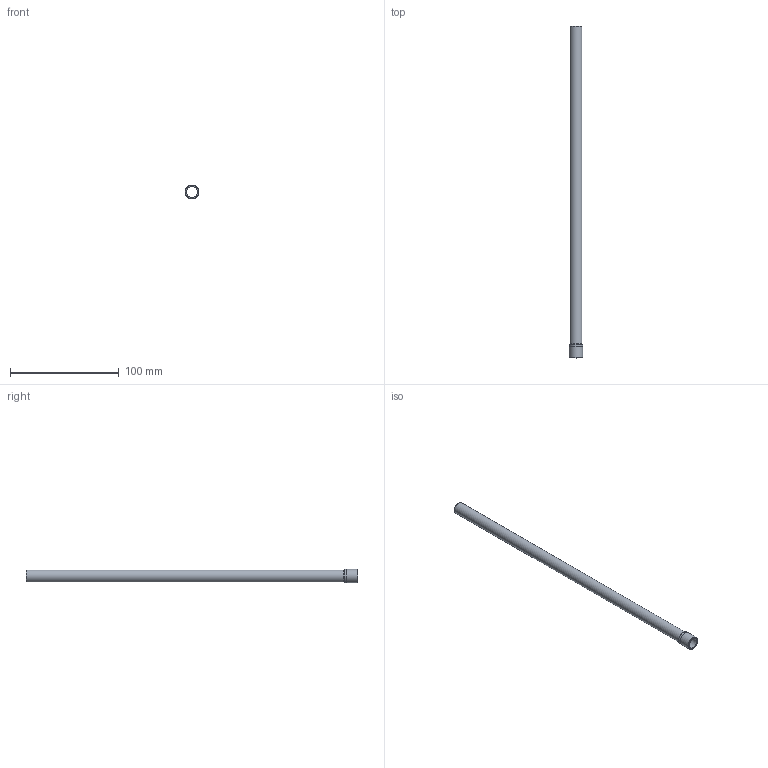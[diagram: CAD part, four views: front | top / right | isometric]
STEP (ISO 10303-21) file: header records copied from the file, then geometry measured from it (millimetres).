
FILE_DESCRIPTION(/* description */ (''),/* implementation_level */ '2;1');
FILE_NAME(/* name */ 'C:/Users/drich/Desktop/HF437T-12 v1.step',/* time_stamp */ '2019-12-30T13:27:06-06:00',/* author */ (''),/* organization */ (''),/* preprocessor_version */ 'ST-DEVELOPER v18',/* originating_system */ 'Autodesk Translation Framework v8.12.0.6',/* authorisation */ '');
FILE_SCHEMA (('AUTOMOTIVE_DESIGN { 1 0 10303 214 3 1 1 }'));
Length unit declared in the file: inch
Products named in the file (1): HF437T-12
Bounding box: 12.75 x 304.8 x 12.75 mm (x, y, z)
Volume: 4224.8 mm3; surface area: 20190 mm2
Topology: 1 solids, 1 shells, 12 faces, 30 edges, 22 vertices
Faces by surface type: plane 4, cylinder 4, torus 3, cone 1
Full cylindrical faces by diameter (mm): 10.084 x1, 10.846 x1, 12.565 x1, 12.751 x1
Entity records: 426 total; most frequent: DIRECTION 81, CARTESIAN_POINT 65, ORIENTED_EDGE 60, AXIS2_PLACEMENT_3D 38, EDGE_CURVE 30, CIRCLE 25, VERTEX_POINT 22, EDGE_LOOP 16
